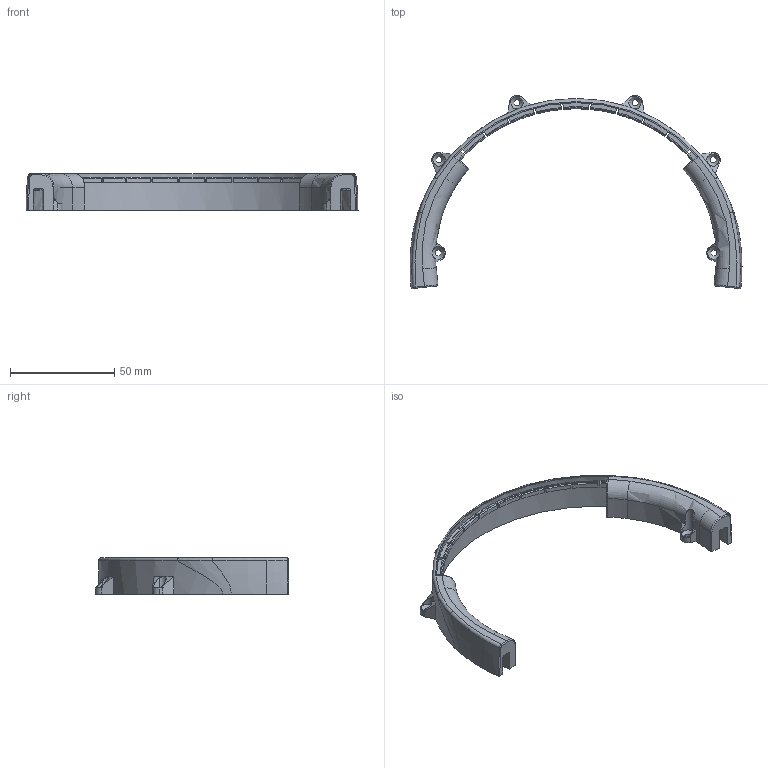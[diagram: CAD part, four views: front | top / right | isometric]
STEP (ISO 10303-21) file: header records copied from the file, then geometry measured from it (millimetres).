
FILE_DESCRIPTION (( 'STEP AP203' ), '1' );
FILE_NAME ('Razer Kraken X Headband Front 03 (long).STEP', '2021-11-10T21:16:36', ( '' ), ( '' ), 'SwSTEP 2.0', 'SolidWorks 2020', '' );
FILE_SCHEMA (( 'CONFIG_CONTROL_DESIGN' ));
Length unit declared in the file: millimetre
Products named in the file (1): Razer Kraken X Headband Front 03 (long)
Bounding box: 159.48 x 92.78 x 17.5 mm (x, y, z)
Volume: 23498.8 mm3; surface area: 17381 mm2
Topology: 1 solids, 1 shells, 265 faces, 718 edges, 458 vertices
Faces by surface type: plane 99, cylinder 86, cone 35, torus 35, bspline 10
Entity records: 9503 total; most frequent: CARTESIAN_POINT 2742, ORIENTED_EDGE 1436, DIRECTION 1414, EDGE_CURVE 718, AXIS2_PLACEMENT_3D 558, VERTEX_POINT 458, CIRCLE 302, LINE 298
